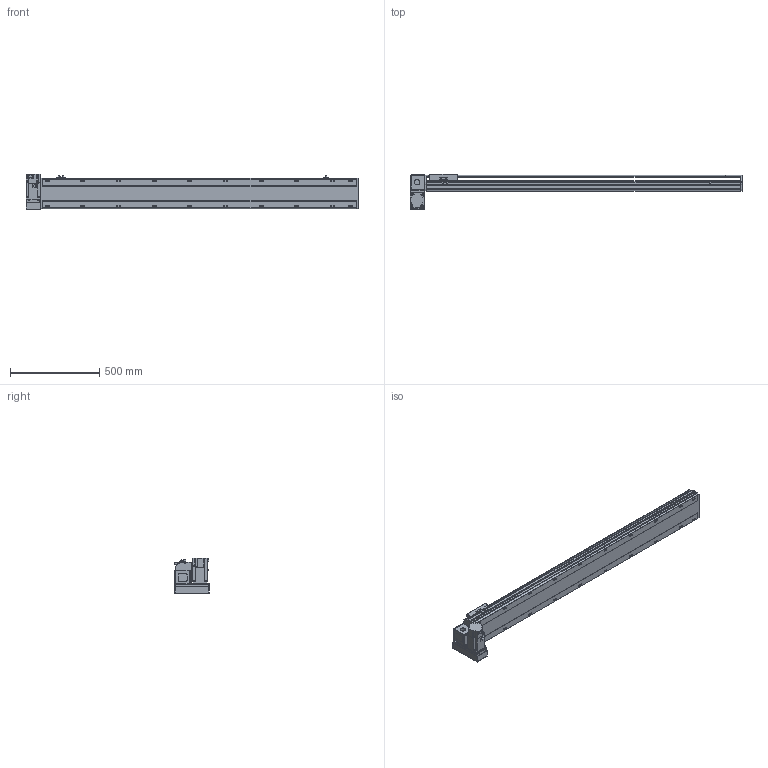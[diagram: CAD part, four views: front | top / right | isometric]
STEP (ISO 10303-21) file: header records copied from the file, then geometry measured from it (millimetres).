
FILE_DESCRIPTION( ( 'STEP AP214' ), '1' );
FILE_NAME( 'x:/temp/worker_4/temp/exporttempdir_2248_335_OOc7l/format_0/PBS170-P40-S1500-LD-T75-C1-N(0).stp', '2022-06-07T07:53:41', ( 'License CC BY-ND 4.0' ), ( 'CADENAS' ), ' ', 'PARTsolutions', ' ' );
FILE_SCHEMA( ( 'AUTOMOTIVE_DESIGN { 1 0 10303 214 1 1 1 1 }' ) );
Length unit declared in the file: millimetre
Products named in the file (7): PBS170-P40-S1500-LD-T75-C1-N(0); _PBS170-S1500()_body; _PBS170T-LD_motors; _T75-p1; _PBS170_sliser; _PBS170_plant; _PBS170_sensor
Assembly tree (8 placements, depth 2):
  PBS170-P40-S1500-LD-T75-C1-N(0)
    _PBS170-S1500()_body
    _PBS170T-LD_motors
    _T75-p1
    _PBS170_sliser
    _PBS170_plant
    _PBS170_sensor  x3
Bounding box: 1863 x 201 x 197.3 mm (x, y, z)
Volume: 14551993.5 mm3; surface area: 1870427.2 mm2
Topology: 8 solids, 8 shells, 1114 faces, 2955 edges, 1926 vertices
Faces by surface type: plane 699, cylinder 355, cone 50, sphere 8, torus 2
Full cylindrical faces by diameter (mm): 3.242 x4, 4 x2, 4.4 x4, 4.5 x6, 4.917 x4, 6 x9, 6.647 x28, 7 x2, 7.5 x4, 8 x8, 8.5 x20, 10 x4, 10.5 x20, 11 x2, 30 x2, 40 x1, 70 x1
Entity records: 41024 total; most frequent: CARTESIAN_POINT 6557, DIRECTION 5440, ORIENTED_EDGE 5148, EDGE_CURVE 2574, AXIS2_PLACEMENT_3D 1897, VERTEX_POINT 1778, LINE 1646, VECTOR 1646
